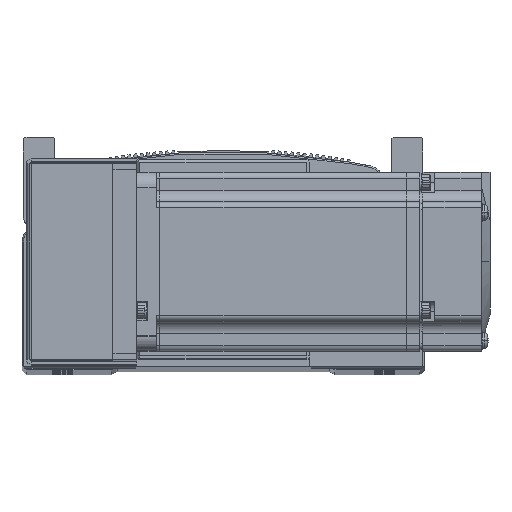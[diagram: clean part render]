
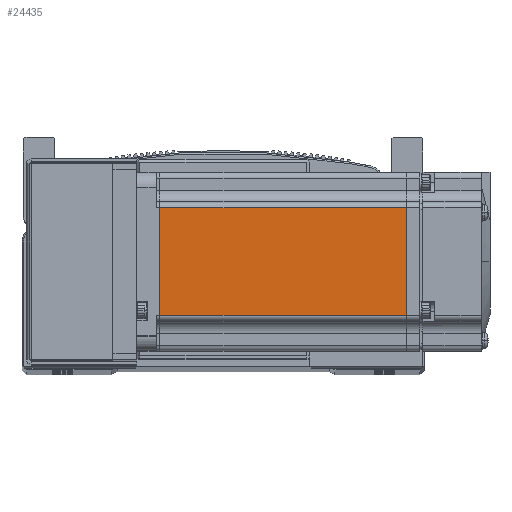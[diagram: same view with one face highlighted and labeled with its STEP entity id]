
A CAD part, top view. The second image highlights one B-rep face of the part: STEP entity #24435.
In plain terms, the highlighted planar face has unit normal (0, 0, 1) as drawn and (0, 0, -1) by its records, which use the part's own axes.
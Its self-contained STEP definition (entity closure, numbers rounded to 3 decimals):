
#7149 = EDGE_CURVE ( 'NONE', #60326, #60401, #32025, .T. ) ;
#7160 = EDGE_CURVE ( 'NONE', #60541, #60326, #32186, .T. ) ;
#7723 = EDGE_CURVE ( 'NONE', #60401, #60344, #27011, .T. ) ;
#7736 = EDGE_CURVE ( 'NONE', #60344, #60541, #27036, .T. ) ;
#20850 = AXIS2_PLACEMENT_3D ( 'NONE', #33063, #33057, #33064 ) ;
#24435 = ADVANCED_FACE ( 'NONE', ( #39023 ), #33054, .T. ) ;
#27011 = LINE ( 'NONE', #59301, #27021 ) ;
#27021 = VECTOR ( 'NONE', #59308, 1000. ) ;
#27022 = VECTOR ( 'NONE', #58660, 1000. ) ;
#27036 = LINE ( 'NONE', #58654, #27022 ) ;
#28020 = CARTESIAN_POINT ( 'NONE',  ( -7.75, -18., -30. ) ) ;
#28021 = CARTESIAN_POINT ( 'NONE',  ( -90.45, 18., -30. ) ) ;
#28023 = CARTESIAN_POINT ( 'NONE',  ( -90.45, -18., -30. ) ) ;
#28073 = CARTESIAN_POINT ( 'NONE',  ( -7.75, 18., -30. ) ) ;
#32014 = VECTOR ( 'NONE', #67247, 1000. ) ;
#32025 = LINE ( 'NONE', #67208, #32014 ) ;
#32157 = VECTOR ( 'NONE', #67282, 1000. ) ;
#32186 = LINE ( 'NONE', #67265, #32157 ) ;
#33054 = PLANE ( 'NONE',  #20850 ) ;
#33057 = DIRECTION ( 'NONE',  ( 0., 0., -1. ) ) ;
#33063 = CARTESIAN_POINT ( 'NONE',  ( -6.5, 25., -30. ) ) ;
#33064 = DIRECTION ( 'NONE',  ( -1., 0., 0. ) ) ;
#39023 = FACE_OUTER_BOUND ( 'NONE', #39444, .T. ) ;
#39444 = EDGE_LOOP ( 'NONE', ( #40016, #40013, #40009, #39986 ) ) ;
#39986 = ORIENTED_EDGE ( 'NONE', *, *, #7736, .T. ) ;
#40009 = ORIENTED_EDGE ( 'NONE', *, *, #7723, .T. ) ;
#40013 = ORIENTED_EDGE ( 'NONE', *, *, #7149, .T. ) ;
#40016 = ORIENTED_EDGE ( 'NONE', *, *, #7160, .T. ) ;
#58654 = CARTESIAN_POINT ( 'NONE',  ( -6.5, 18., -30. ) ) ;
#58660 = DIRECTION ( 'NONE',  ( 1., 0., 0. ) ) ;
#59301 = CARTESIAN_POINT ( 'NONE',  ( -90.45, 25., -30. ) ) ;
#59308 = DIRECTION ( 'NONE',  ( 0., 1., 0. ) ) ;
#60326 = VERTEX_POINT ( 'NONE', #28020 ) ;
#60344 = VERTEX_POINT ( 'NONE', #28021 ) ;
#60401 = VERTEX_POINT ( 'NONE', #28023 ) ;
#60541 = VERTEX_POINT ( 'NONE', #28073 ) ;
#67208 = CARTESIAN_POINT ( 'NONE',  ( -6.5, -18., -30. ) ) ;
#67247 = DIRECTION ( 'NONE',  ( -1., 0., 0. ) ) ;
#67265 = CARTESIAN_POINT ( 'NONE',  ( -7.75, 25., -30. ) ) ;
#67282 = DIRECTION ( 'NONE',  ( 0., -1., 0. ) ) ;
